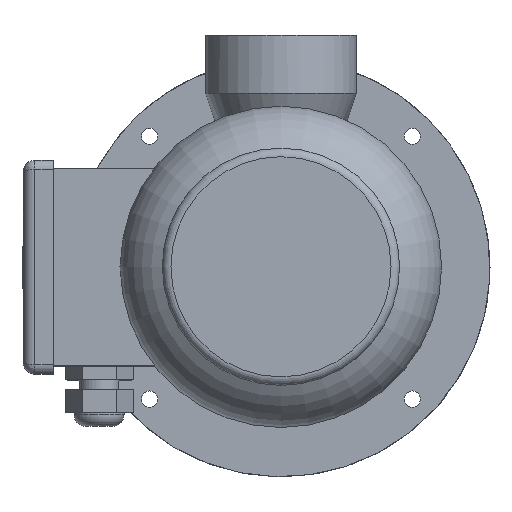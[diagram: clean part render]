
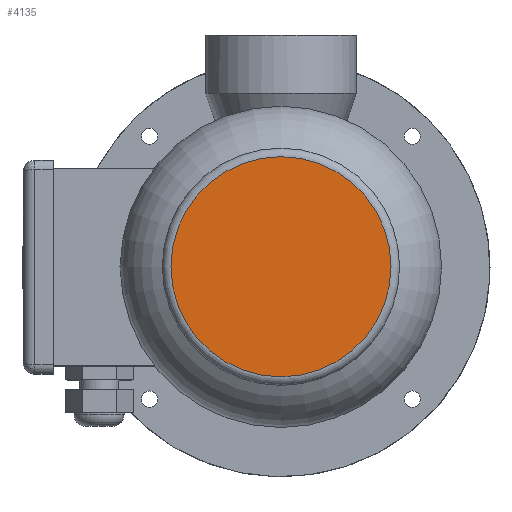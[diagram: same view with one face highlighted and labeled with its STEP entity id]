
A CAD part, top view. The second image highlights one B-rep face of the part: STEP entity #4135.
In plain terms, the highlighted planar face has unit normal (0, 0, 1).
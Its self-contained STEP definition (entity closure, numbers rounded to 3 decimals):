
#754=CIRCLE('',#4487,47.382);
#1118=ORIENTED_EDGE('',*,*,#2284,.F.);
#2284=EDGE_CURVE('',#2861,#2861,#754,.T.);
#2861=VERTEX_POINT('',#7811);
#3348=EDGE_LOOP('',(#1118));
#3711=FACE_BOUND('',#3348,.T.);
#4004=PLANE('',#4486);
#4135=ADVANCED_FACE('',(#3711),#4004,.F.);
#4486=AXIS2_PLACEMENT_3D('',#7809,#5030,#5031);
#4487=AXIS2_PLACEMENT_3D('',#7810,#5032,#5033);
#5030=DIRECTION('',(0.,0.,-1.));
#5031=DIRECTION('',(-1.,0.,0.));
#5032=DIRECTION('',(0.,0.,-1.));
#5033=DIRECTION('',(-1.,0.,0.));
#7809=CARTESIAN_POINT('',(0.,0.,426.962));
#7810=CARTESIAN_POINT('',(0.,0.,426.962));
#7811=CARTESIAN_POINT('',(-47.382,0.,426.962));
